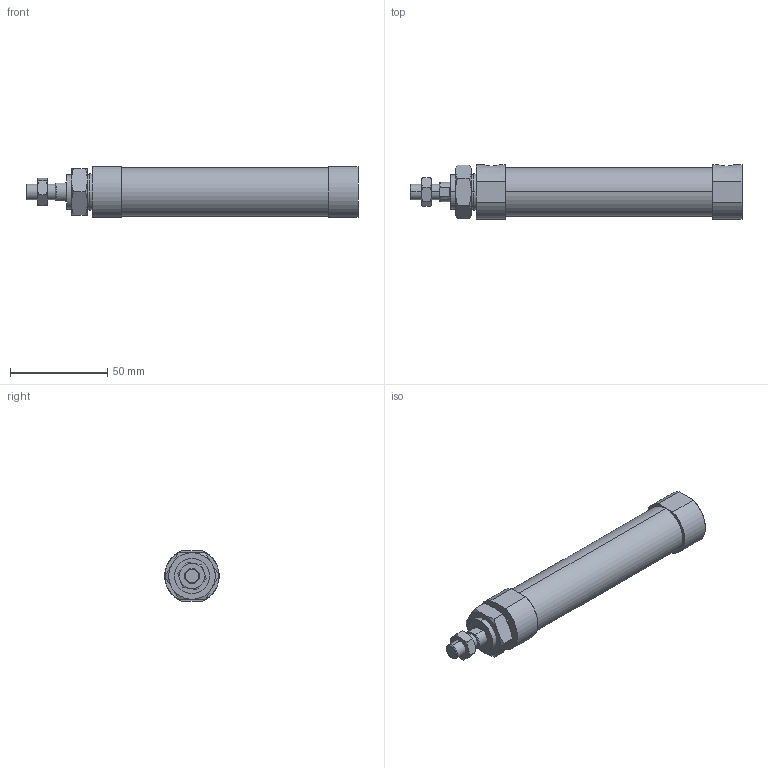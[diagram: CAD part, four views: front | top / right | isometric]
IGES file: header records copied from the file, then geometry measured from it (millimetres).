
Start section: SolidWorks IGES file using analytic representation for surfaces
Global section: file name: C:\Users\Toshiba\Desktop\JGND2-20-75-N.IGS; native system: SolidWorks 2014; preprocessor: SolidWorks 2014; author: Toshiba; date: 160804.102842; units: millimetre
Bounding box: 171 x 28 x 26 mm (x, y, z)
Surface area: 16609.4 mm2 (no closed solid volume)
Topology: 0 solids, 0 shells, 84 faces, 1468 edges, 1468 vertices
Faces by surface type: bspline 58, revolution 26
